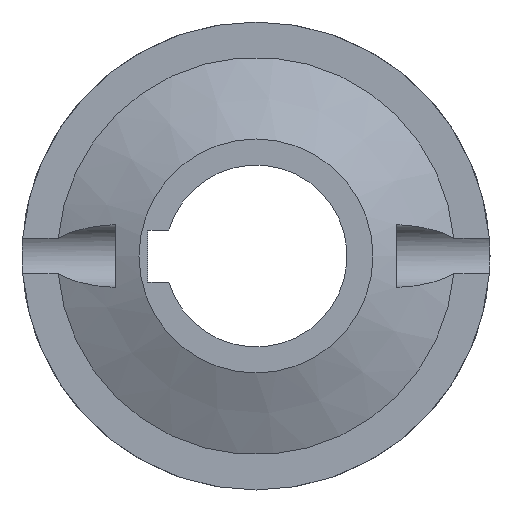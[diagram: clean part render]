
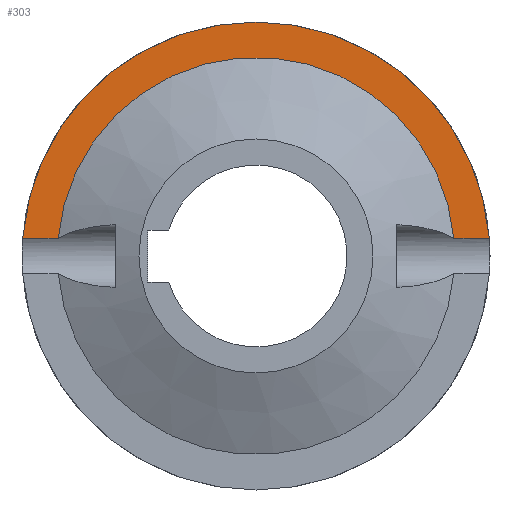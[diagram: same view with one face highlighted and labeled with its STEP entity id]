
A CAD part, front view. The second image highlights one B-rep face of the part: STEP entity #303.
In plain terms, the highlighted planar face has unit normal (0, -1, 0).
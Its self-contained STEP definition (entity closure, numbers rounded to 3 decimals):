
#303 = ADVANCED_FACE( '', ( #925 ), #926, .T. );
#925 = FACE_OUTER_BOUND( '', #1752, .T. );
#926 = PLANE( '', #1753 );
#1752 = EDGE_LOOP( '', ( #2870, #2871, #2872, #2873 ) );
#1753 = AXIS2_PLACEMENT_3D( '', #2874, #2875, #2876 );
#2870 = ORIENTED_EDGE( '', *, *, #4464, .F. );
#2871 = ORIENTED_EDGE( '', *, *, #4465, .F. );
#2872 = ORIENTED_EDGE( '', *, *, #4466, .T. );
#2873 = ORIENTED_EDGE( '', *, *, #4374, .F. );
#2874 = CARTESIAN_POINT( '', ( -45.412, 0., 45.25 ) );
#2875 = DIRECTION( '', ( 0., -1., 0. ) );
#2876 = DIRECTION( '', ( 0., 0., -1. ) );
#4374 = EDGE_CURVE( '', #5108, #5111, #5112, .F. );
#4464 = EDGE_CURVE( '', #5260, #5108, #5261, .T. );
#4465 = EDGE_CURVE( '', #5262, #5260, #5263, .F. );
#4466 = EDGE_CURVE( '', #5262, #5111, #5264, .T. );
#5108 = VERTEX_POINT( '', #6125 );
#5111 = VERTEX_POINT( '', #6143 );
#5112 = CIRCLE( '', #6144, 45. );
#5260 = VERTEX_POINT( '', #6355 );
#5261 = LINE( '', #6356, #6357 );
#5262 = VERTEX_POINT( '', #6358 );
#5263 = CIRCLE( '', #6359, 38.2 );
#5264 = LINE( '', #6360, #6361 );
#6125 = CARTESIAN_POINT( '', ( -44.874, 0., 3.369 ) );
#6143 = CARTESIAN_POINT( '', ( 44.874, 0., 3.369 ) );
#6144 = AXIS2_PLACEMENT_3D( '', #7447, #7448, #7449 );
#6355 = CARTESIAN_POINT( '', ( -38.051, 0., 3.369 ) );
#6356 = CARTESIAN_POINT( '', ( -27., 0., 3.369 ) );
#6357 = VECTOR( '', #7561, 1000. );
#6358 = CARTESIAN_POINT( '', ( 38.051, 0., 3.369 ) );
#6359 = AXIS2_PLACEMENT_3D( '', #7562, #7563, #7564 );
#6360 = CARTESIAN_POINT( '', ( -45.412, 0., 3.369 ) );
#6361 = VECTOR( '', #7565, 1000. );
#7447 = CARTESIAN_POINT( '', ( 0., 0., 0. ) );
#7448 = DIRECTION( '', ( 0., -1., 0. ) );
#7449 = DIRECTION( '', ( 0., 0., -1. ) );
#7561 = DIRECTION( '', ( -1., 0., 0. ) );
#7562 = CARTESIAN_POINT( '', ( 0., 0., 0. ) );
#7563 = DIRECTION( '', ( 0., 1., 0. ) );
#7564 = DIRECTION( '', ( -1., 0., 0. ) );
#7565 = DIRECTION( '', ( 1., 0., 0. ) );
